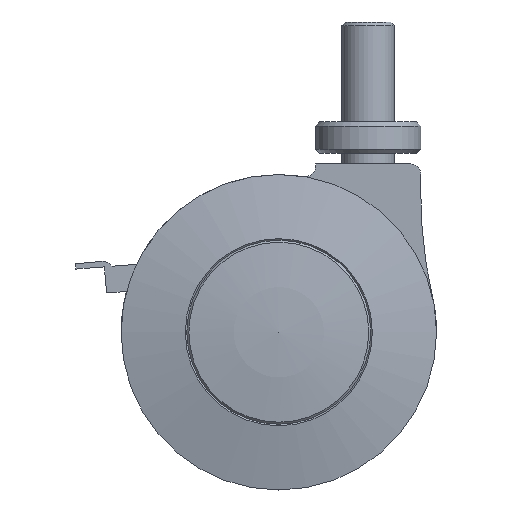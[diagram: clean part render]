
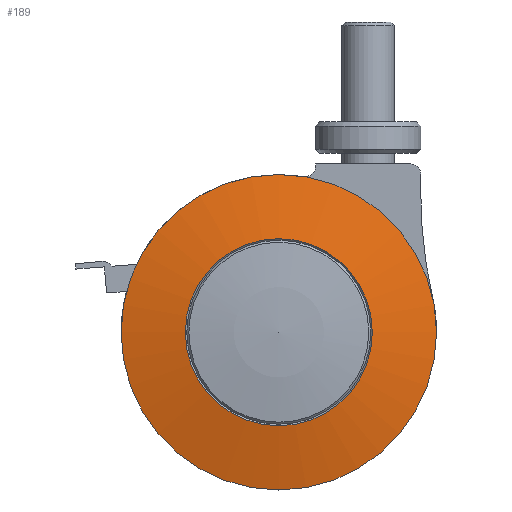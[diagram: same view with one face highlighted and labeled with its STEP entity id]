
A CAD part, front view. The second image highlights one B-rep face of the part: STEP entity #189.
In plain terms, the highlighted spherical face has radius 114.5 mm.
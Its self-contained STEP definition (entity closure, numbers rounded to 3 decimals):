
#189=ADVANCED_FACE('',(#359,#360),#361,.T.);
#359=FACE_OUTER_BOUND('',#524,.T.);
#360=FACE_OUTER_BOUND('',#525,.T.);
#361=SPHERICAL_SURFACE('',#526,114.5);
#524=EDGE_LOOP('',(#752));
#525=EDGE_LOOP('',(#753));
#526=AXIS2_PLACEMENT_3D('',#754,#755,#756);
#752=ORIENTED_EDGE('',*,*,#997,.T.);
#753=ORIENTED_EDGE('',*,*,#974,.F.);
#754=CARTESIAN_POINT('',(0.,-102.,0.));
#755=DIRECTION('',(0.0,-1.0,0.));
#756=DIRECTION('',(1.0,0.0,0.0));
#974=EDGE_CURVE('',#1129,#1129,#1130,.T.);
#997=EDGE_CURVE('',#1163,#1163,#1164,.T.);
#1129=VERTEX_POINT('',#1330);
#1130=CIRCLE('',#1331,30.);
#1163=VERTEX_POINT('',#1367);
#1164=CIRCLE('',#1368,17.784);
#1330=CARTESIAN_POINT('',(0.,8.5,-30.));
#1331=AXIS2_PLACEMENT_3D('',#1519,#1520,#1521);
#1367=CARTESIAN_POINT('',(0.,11.11,-17.784));
#1368=AXIS2_PLACEMENT_3D('',#1549,#1550,#1551);
#1519=CARTESIAN_POINT('',(0.,8.5,0.));
#1520=DIRECTION('',(0.0,-1.0,0.));
#1521=DIRECTION('',(0.0,0.,-1.0));
#1549=CARTESIAN_POINT('',(0.,11.11,0.));
#1550=DIRECTION('',(0.0,-1.0,0.));
#1551=DIRECTION('',(0.0,0.,-1.0));
